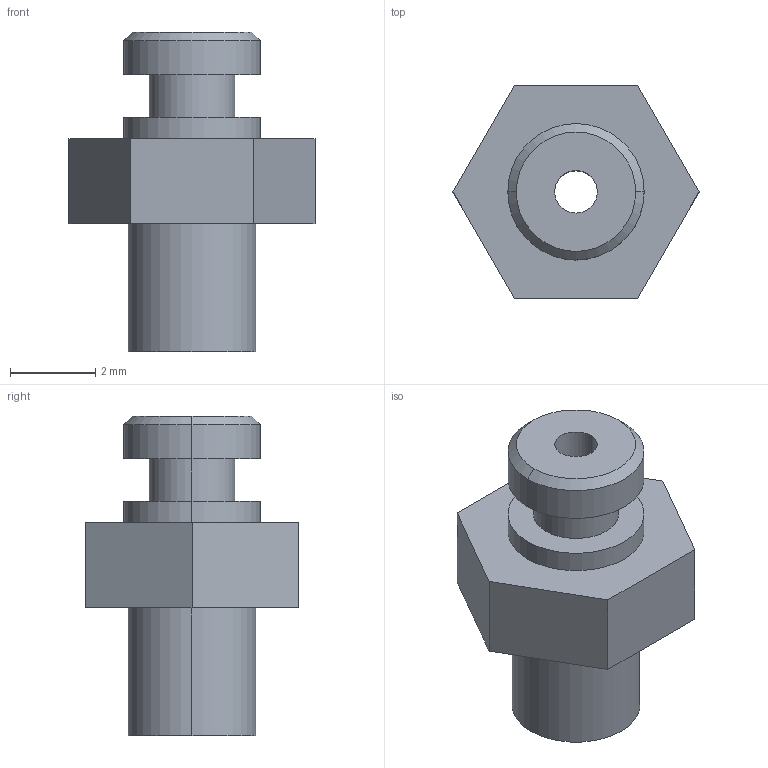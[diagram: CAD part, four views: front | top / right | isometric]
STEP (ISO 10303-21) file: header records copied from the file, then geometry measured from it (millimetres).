
FILE_DESCRIPTION (( 'STEP AP214' ), '1' );
FILE_NAME ('VM25-M3.STEP', '2023-03-07T08:55:24', ( 'Windows User' ), ( 'P R C' ), 'SwSTEP 2.0', 'SolidWorks 2019', '' );
FILE_SCHEMA (( 'AUTOMOTIVE_DESIGN' ));
Length unit declared in the file: millimetre
Products named in the file (1): VM25-M3
Bounding box: 5.77 x 5 x 7.5 mm (x, y, z)
Volume: 73.6 mm3; surface area: 158.1 mm2
Topology: 1 solids, 1 shells, 24 faces, 52 edges, 34 vertices
Faces by surface type: plane 12, cylinder 10, cone 2
Entity records: 700 total; most frequent: DIRECTION 124, CARTESIAN_POINT 111, ORIENTED_EDGE 104, EDGE_CURVE 52, AXIS2_PLACEMENT_3D 47, VERTEX_POINT 34, EDGE_LOOP 30, VECTOR 30
